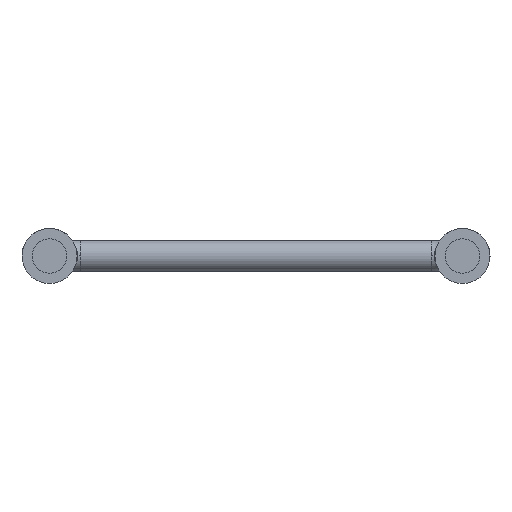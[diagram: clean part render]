
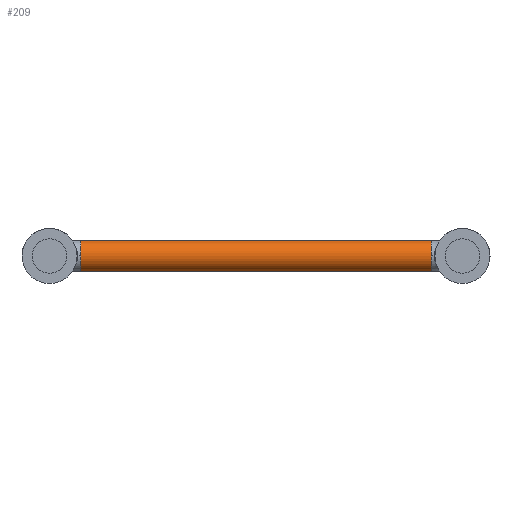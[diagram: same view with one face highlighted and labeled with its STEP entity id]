
A CAD part, front view. The second image highlights one B-rep face of the part: STEP entity #209.
In plain terms, the highlighted cylindrical face has radius 4.5 mm (diameter 9 mm), a partial arc.
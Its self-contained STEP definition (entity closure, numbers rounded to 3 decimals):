
#2 = CIRCLE ( 'NONE', #2043, 4.5 ) ;
#22 = VERTEX_POINT ( 'NONE', #1821 ) ;
#79 = AXIS2_PLACEMENT_3D ( 'NONE', #1018, #671, #331 ) ;
#129 = DIRECTION ( 'NONE',  ( 0., 0., 1. ) ) ;
#165 = LINE ( 'NONE', #458, #1080 ) ;
#209 = ADVANCED_FACE ( 'NONE', ( #2325 ), #1947, .T. ) ;
#222 = EDGE_CURVE ( 'NONE', #1411, #22, #861, .T. ) ;
#235 = DIRECTION ( 'NONE',  ( 1., 0., 0. ) ) ;
#280 = DIRECTION ( 'NONE',  ( 1., 0., 0. ) ) ;
#291 = CIRCLE ( 'NONE', #1004, 4.5 ) ;
#321 = VERTEX_POINT ( 'NONE', #407 ) ;
#331 = DIRECTION ( 'NONE',  ( 0., 0., 1. ) ) ;
#361 = CARTESIAN_POINT ( 'NONE',  ( 9., 33., 4.5 ) ) ;
#367 = CARTESIAN_POINT ( 'NONE',  ( 111., 33., -4.5 ) ) ;
#407 = CARTESIAN_POINT ( 'NONE',  ( 9., 33., -4.5 ) ) ;
#414 = ORIENTED_EDGE ( 'NONE', *, *, #1356, .F. ) ;
#458 = CARTESIAN_POINT ( 'NONE',  ( 9., 33., -4.5 ) ) ;
#498 = DIRECTION ( 'NONE',  ( 1., 0., 0. ) ) ;
#664 = AXIS2_PLACEMENT_3D ( 'NONE', #832, #1563, #2296 ) ;
#671 = DIRECTION ( 'NONE',  ( 1., 0., 0. ) ) ;
#684 = VERTEX_POINT ( 'NONE', #367 ) ;
#832 = CARTESIAN_POINT ( 'NONE',  ( 9., 33., 0. ) ) ;
#861 = CIRCLE ( 'NONE', #79, 4.5 ) ;
#931 = CIRCLE ( 'NONE', #664, 4.5 ) ;
#955 = DIRECTION ( 'NONE',  ( 0., 0., 1. ) ) ;
#995 = EDGE_CURVE ( 'NONE', #1610, #1411, #1251, .T. ) ;
#1004 = AXIS2_PLACEMENT_3D ( 'NONE', #1172, #498, #129 ) ;
#1018 = CARTESIAN_POINT ( 'NONE',  ( 111., 33., 0. ) ) ;
#1080 = VECTOR ( 'NONE', #280, 1000. ) ;
#1172 = CARTESIAN_POINT ( 'NONE',  ( 111., 33., 0. ) ) ;
#1198 = CARTESIAN_POINT ( 'NONE',  ( 111., 33., 4.5 ) ) ;
#1251 = LINE ( 'NONE', #361, #1500 ) ;
#1300 = CARTESIAN_POINT ( 'NONE',  ( 9., 28.5, 0. ) ) ;
#1328 = AXIS2_PLACEMENT_3D ( 'NONE', #1394, #2134, #1384 ) ;
#1356 = EDGE_CURVE ( 'NONE', #22, #684, #291, .T. ) ;
#1384 = DIRECTION ( 'NONE',  ( 0., 0., -1. ) ) ;
#1394 = CARTESIAN_POINT ( 'NONE',  ( 9., 33., 0. ) ) ;
#1411 = VERTEX_POINT ( 'NONE', #1198 ) ;
#1424 = DIRECTION ( 'NONE',  ( 1., 0., 0. ) ) ;
#1439 = EDGE_CURVE ( 'NONE', #1610, #1605, #931, .T. ) ;
#1500 = VECTOR ( 'NONE', #1424, 1000. ) ;
#1563 = DIRECTION ( 'NONE',  ( 1., 0., 0. ) ) ;
#1582 = EDGE_LOOP ( 'NONE', ( #2114, #2153, #1985, #1742, #414, #1800 ) ) ;
#1605 = VERTEX_POINT ( 'NONE', #1300 ) ;
#1610 = VERTEX_POINT ( 'NONE', #2026 ) ;
#1742 = ORIENTED_EDGE ( 'NONE', *, *, #1750, .T. ) ;
#1750 = EDGE_CURVE ( 'NONE', #321, #684, #165, .T. ) ;
#1800 = ORIENTED_EDGE ( 'NONE', *, *, #222, .F. ) ;
#1821 = CARTESIAN_POINT ( 'NONE',  ( 111., 28.5, 0. ) ) ;
#1947 = CYLINDRICAL_SURFACE ( 'NONE', #1328, 4.5 ) ;
#1985 = ORIENTED_EDGE ( 'NONE', *, *, #2318, .T. ) ;
#2026 = CARTESIAN_POINT ( 'NONE',  ( 9., 33., 4.5 ) ) ;
#2043 = AXIS2_PLACEMENT_3D ( 'NONE', #2044, #235, #955 ) ;
#2044 = CARTESIAN_POINT ( 'NONE',  ( 9., 33., 0. ) ) ;
#2114 = ORIENTED_EDGE ( 'NONE', *, *, #995, .F. ) ;
#2134 = DIRECTION ( 'NONE',  ( 1., 0., 0. ) ) ;
#2153 = ORIENTED_EDGE ( 'NONE', *, *, #1439, .T. ) ;
#2296 = DIRECTION ( 'NONE',  ( 0., 0., 1. ) ) ;
#2318 = EDGE_CURVE ( 'NONE', #1605, #321, #2, .T. ) ;
#2325 = FACE_OUTER_BOUND ( 'NONE', #1582, .T. ) ;
